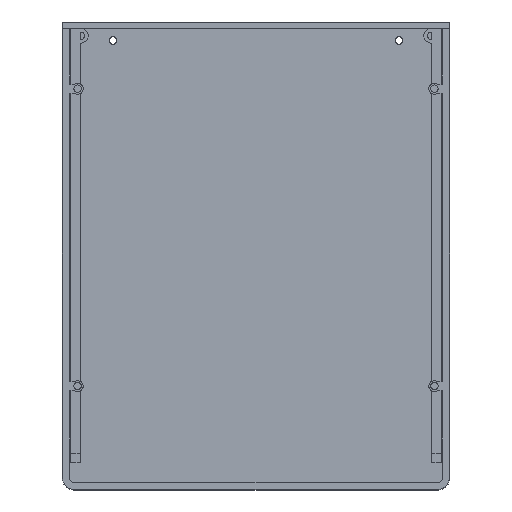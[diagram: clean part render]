
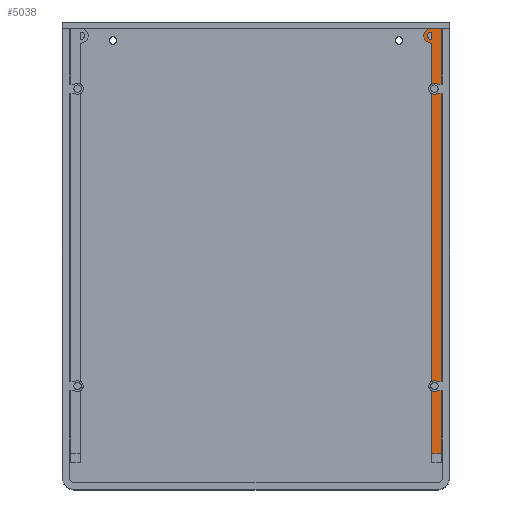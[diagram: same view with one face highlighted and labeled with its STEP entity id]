
A CAD part, top view. The second image highlights one B-rep face of the part: STEP entity #5038.
In plain terms, the highlighted planar face has unit normal (0, 0, 1).
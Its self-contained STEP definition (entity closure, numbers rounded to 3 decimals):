
#151 = PLANE('',#152);
#152 = AXIS2_PLACEMENT_3D('',#153,#154,#155);
#153 = CARTESIAN_POINT('',(-1.,200.,1.4));
#154 = DIRECTION('',(0.,1.,0.));
#155 = DIRECTION('',(0.,0.,1.));
#1339 = VERTEX_POINT('',#1340);
#1340 = CARTESIAN_POINT('',(158.886,200.,3.2));
#1353 = CYLINDRICAL_SURFACE('',#1354,3.2);
#1354 = AXIS2_PLACEMENT_3D('',#1355,#1356,#1357);
#1355 = CARTESIAN_POINT('',(160.,197.,2.8));
#1356 = DIRECTION('',(-0.,-0.,-1.));
#1357 = DIRECTION('',(1.,0.,0.));
#1364 = EDGE_CURVE('',#1365,#1339,#1367,.T.);
#1365 = VERTEX_POINT('',#1366);
#1366 = CARTESIAN_POINT('',(164.3,200.,3.2));
#1367 = SURFACE_CURVE('',#1368,(#1372,#1378),.PCURVE_S1.);
#1368 = LINE('',#1369,#1370);
#1369 = CARTESIAN_POINT('',(79.65,200.,3.2));
#1370 = VECTOR('',#1371,1.);
#1371 = DIRECTION('',(-1.,0.,0.));
#1372 = PCURVE('',#151,#1373);
#1373 = DEFINITIONAL_REPRESENTATION('',(#1374),#1377);
#1374 = B_SPLINE_CURVE_WITH_KNOTS('',1,(#1375,#1376),.UNSPECIFIED.,.F.,
  .F.,(2,2),(-84.65,-77.15),.PIECEWISE_BEZIER_KNOTS.);
#1375 = CARTESIAN_POINT('',(1.8,165.3));
#1376 = CARTESIAN_POINT('',(1.8,157.8));
#1377 = ( GEOMETRIC_REPRESENTATION_CONTEXT(2) 
PARAMETRIC_REPRESENTATION_CONTEXT() REPRESENTATION_CONTEXT('2D SPACE',''
  ) );
#1378 = PCURVE('',#1379,#1384);
#1379 = PLANE('',#1380);
#1380 = AXIS2_PLACEMENT_3D('',#1381,#1382,#1383);
#1381 = CARTESIAN_POINT('',(160.3,14.,3.2));
#1382 = DIRECTION('',(0.,0.,1.));
#1383 = DIRECTION('',(1.,0.,0.));
#1384 = DEFINITIONAL_REPRESENTATION('',(#1385),#1388);
#1385 = B_SPLINE_CURVE_WITH_KNOTS('',1,(#1386,#1387),.UNSPECIFIED.,.F.,
  .F.,(2,2),(-84.65,-77.15),.PIECEWISE_BEZIER_KNOTS.);
#1386 = CARTESIAN_POINT('',(4.,186.));
#1387 = CARTESIAN_POINT('',(-3.5,186.));
#1388 = ( GEOMETRIC_REPRESENTATION_CONTEXT(2) 
PARAMETRIC_REPRESENTATION_CONTEXT() REPRESENTATION_CONTEXT('2D SPACE',''
  ) );
#1405 = PLANE('',#1406);
#1406 = AXIS2_PLACEMENT_3D('',#1407,#1408,#1409);
#1407 = CARTESIAN_POINT('',(164.3,12.,2.8));
#1408 = DIRECTION('',(1.,0.,0.));
#1409 = DIRECTION('',(0.,0.,1.));
#4733 = PLANE('',#4734);
#4734 = AXIS2_PLACEMENT_3D('',#4735,#4736,#4737);
#4735 = CARTESIAN_POINT('',(160.3,12.,2.8));
#4736 = DIRECTION('',(1.,0.,0.));
#4737 = DIRECTION('',(0.,0.,1.));
#4938 = VERTEX_POINT('',#4939);
#4939 = CARTESIAN_POINT('',(164.3,15.7,3.2));
#4955 = PLANE('',#4956);
#4956 = AXIS2_PLACEMENT_3D('',#4957,#4958,#4959);
#4957 = CARTESIAN_POINT('',(160.3,15.7,2.8));
#4958 = DIRECTION('',(0.,1.,0.));
#4959 = DIRECTION('',(0.,0.,1.));
#5018 = EDGE_CURVE('',#4938,#1365,#5019,.T.);
#5019 = SURFACE_CURVE('',#5020,(#5024,#5031),.PCURVE_S1.);
#5020 = LINE('',#5021,#5022);
#5021 = CARTESIAN_POINT('',(164.3,14.,3.2));
#5022 = VECTOR('',#5023,1.);
#5023 = DIRECTION('',(0.,1.,0.));
#5024 = PCURVE('',#1405,#5025);
#5025 = DEFINITIONAL_REPRESENTATION('',(#5026),#5030);
#5026 = LINE('',#5027,#5028);
#5027 = CARTESIAN_POINT('',(0.4,-2.));
#5028 = VECTOR('',#5029,1.);
#5029 = DIRECTION('',(0.,-1.));
#5030 = ( GEOMETRIC_REPRESENTATION_CONTEXT(2) 
PARAMETRIC_REPRESENTATION_CONTEXT() REPRESENTATION_CONTEXT('2D SPACE',''
  ) );
#5031 = PCURVE('',#1379,#5032);
#5032 = DEFINITIONAL_REPRESENTATION('',(#5033),#5037);
#5033 = LINE('',#5034,#5035);
#5034 = CARTESIAN_POINT('',(4.,0.));
#5035 = VECTOR('',#5036,1.);
#5036 = DIRECTION('',(0.,1.));
#5037 = ( GEOMETRIC_REPRESENTATION_CONTEXT(2) 
PARAMETRIC_REPRESENTATION_CONTEXT() REPRESENTATION_CONTEXT('2D SPACE',''
  ) );
#5038 = ADVANCED_FACE('',(#5039,#5110),#1379,.T.);
#5039 = FACE_BOUND('',#5040,.T.);
#5040 = EDGE_LOOP('',(#5041,#5066,#5086,#5087,#5088));
#5041 = ORIENTED_EDGE('',*,*,#5042,.F.);
#5042 = EDGE_CURVE('',#5043,#5045,#5047,.T.);
#5043 = VERTEX_POINT('',#5044);
#5044 = CARTESIAN_POINT('',(160.3,15.7,3.2));
#5045 = VERTEX_POINT('',#5046);
#5046 = CARTESIAN_POINT('',(160.3,193.814,3.2));
#5047 = SURFACE_CURVE('',#5048,(#5052,#5059),.PCURVE_S1.);
#5048 = LINE('',#5049,#5050);
#5049 = CARTESIAN_POINT('',(160.3,14.,3.2));
#5050 = VECTOR('',#5051,1.);
#5051 = DIRECTION('',(0.,1.,0.));
#5052 = PCURVE('',#1379,#5053);
#5053 = DEFINITIONAL_REPRESENTATION('',(#5054),#5058);
#5054 = LINE('',#5055,#5056);
#5055 = CARTESIAN_POINT('',(0.,0.));
#5056 = VECTOR('',#5057,1.);
#5057 = DIRECTION('',(0.,1.));
#5058 = ( GEOMETRIC_REPRESENTATION_CONTEXT(2) 
PARAMETRIC_REPRESENTATION_CONTEXT() REPRESENTATION_CONTEXT('2D SPACE',''
  ) );
#5059 = PCURVE('',#4733,#5060);
#5060 = DEFINITIONAL_REPRESENTATION('',(#5061),#5065);
#5061 = LINE('',#5062,#5063);
#5062 = CARTESIAN_POINT('',(0.4,-2.));
#5063 = VECTOR('',#5064,1.);
#5064 = DIRECTION('',(0.,-1.));
#5065 = ( GEOMETRIC_REPRESENTATION_CONTEXT(2) 
PARAMETRIC_REPRESENTATION_CONTEXT() REPRESENTATION_CONTEXT('2D SPACE',''
  ) );
#5066 = ORIENTED_EDGE('',*,*,#5067,.F.);
#5067 = EDGE_CURVE('',#4938,#5043,#5068,.T.);
#5068 = SURFACE_CURVE('',#5069,(#5073,#5080),.PCURVE_S1.);
#5069 = LINE('',#5070,#5071);
#5070 = CARTESIAN_POINT('',(160.3,15.7,3.2));
#5071 = VECTOR('',#5072,1.);
#5072 = DIRECTION('',(-1.,0.,0.));
#5073 = PCURVE('',#1379,#5074);
#5074 = DEFINITIONAL_REPRESENTATION('',(#5075),#5079);
#5075 = LINE('',#5076,#5077);
#5076 = CARTESIAN_POINT('',(0.,1.7));
#5077 = VECTOR('',#5078,1.);
#5078 = DIRECTION('',(-1.,0.));
#5079 = ( GEOMETRIC_REPRESENTATION_CONTEXT(2) 
PARAMETRIC_REPRESENTATION_CONTEXT() REPRESENTATION_CONTEXT('2D SPACE',''
  ) );
#5080 = PCURVE('',#4955,#5081);
#5081 = DEFINITIONAL_REPRESENTATION('',(#5082),#5085);
#5082 = B_SPLINE_CURVE_WITH_KNOTS('',1,(#5083,#5084),.UNSPECIFIED.,.F.,
  .F.,(2,2),(-4.,0.),.PIECEWISE_BEZIER_KNOTS.);
#5083 = CARTESIAN_POINT('',(0.4,4.));
#5084 = CARTESIAN_POINT('',(0.4,0.));
#5085 = ( GEOMETRIC_REPRESENTATION_CONTEXT(2) 
PARAMETRIC_REPRESENTATION_CONTEXT() REPRESENTATION_CONTEXT('2D SPACE',''
  ) );
#5086 = ORIENTED_EDGE('',*,*,#5018,.T.);
#5087 = ORIENTED_EDGE('',*,*,#1364,.T.);
#5088 = ORIENTED_EDGE('',*,*,#5089,.T.);
#5089 = EDGE_CURVE('',#1339,#5045,#5090,.T.);
#5090 = SURFACE_CURVE('',#5091,(#5096,#5103),.PCURVE_S1.);
#5091 = CIRCLE('',#5092,3.2);
#5092 = AXIS2_PLACEMENT_3D('',#5093,#5094,#5095);
#5093 = CARTESIAN_POINT('',(160.,197.,3.2));
#5094 = DIRECTION('',(0.,0.,1.));
#5095 = DIRECTION('',(1.,0.,0.));
#5096 = PCURVE('',#1379,#5097);
#5097 = DEFINITIONAL_REPRESENTATION('',(#5098),#5102);
#5098 = CIRCLE('',#5099,3.2);
#5099 = AXIS2_PLACEMENT_2D('',#5100,#5101);
#5100 = CARTESIAN_POINT('',(-0.3,183.));
#5101 = DIRECTION('',(1.,0.));
#5102 = ( GEOMETRIC_REPRESENTATION_CONTEXT(2) 
PARAMETRIC_REPRESENTATION_CONTEXT() REPRESENTATION_CONTEXT('2D SPACE',''
  ) );
#5103 = PCURVE('',#1353,#5104);
#5104 = DEFINITIONAL_REPRESENTATION('',(#5105),#5109);
#5105 = LINE('',#5106,#5107);
#5106 = CARTESIAN_POINT('',(-0.,-0.4));
#5107 = VECTOR('',#5108,1.);
#5108 = DIRECTION('',(-1.,0.));
#5109 = ( GEOMETRIC_REPRESENTATION_CONTEXT(2) 
PARAMETRIC_REPRESENTATION_CONTEXT() REPRESENTATION_CONTEXT('2D SPACE',''
  ) );
#5110 = FACE_BOUND('',#5111,.T.);
#5111 = EDGE_LOOP('',(#5112,#5147));
#5112 = ORIENTED_EDGE('',*,*,#5113,.T.);
#5113 = EDGE_CURVE('',#5114,#5116,#5118,.T.);
#5114 = VERTEX_POINT('',#5115);
#5115 = CARTESIAN_POINT('',(160.3,195.428,3.2));
#5116 = VERTEX_POINT('',#5117);
#5117 = CARTESIAN_POINT('',(160.3,198.572,3.2));
#5118 = SURFACE_CURVE('',#5119,(#5124,#5135),.PCURVE_S1.);
#5119 = CIRCLE('',#5120,1.6);
#5120 = AXIS2_PLACEMENT_3D('',#5121,#5122,#5123);
#5121 = CARTESIAN_POINT('',(160.,197.,3.2));
#5122 = DIRECTION('',(0.,0.,-1.));
#5123 = DIRECTION('',(1.,0.,0.));
#5124 = PCURVE('',#1379,#5125);
#5125 = DEFINITIONAL_REPRESENTATION('',(#5126),#5134);
#5126 = ( BOUNDED_CURVE() B_SPLINE_CURVE(2,(#5127,#5128,#5129,#5130,
#5131,#5132,#5133),.UNSPECIFIED.,.T.,.F.) B_SPLINE_CURVE_WITH_KNOTS((1,2
    ,2,2,2,1),(-2.094,0.,2.094,4.189,
6.283,8.378),.UNSPECIFIED.) CURVE() 
GEOMETRIC_REPRESENTATION_ITEM() RATIONAL_B_SPLINE_CURVE((1.,0.5,1.,0.5,
1.,0.5,1.)) REPRESENTATION_ITEM('') );
#5127 = CARTESIAN_POINT('',(1.3,183.));
#5128 = CARTESIAN_POINT('',(1.3,180.229));
#5129 = CARTESIAN_POINT('',(-1.1,181.614));
#5130 = CARTESIAN_POINT('',(-3.5,183.));
#5131 = CARTESIAN_POINT('',(-1.1,184.386));
#5132 = CARTESIAN_POINT('',(1.3,185.771));
#5133 = CARTESIAN_POINT('',(1.3,183.));
#5134 = ( GEOMETRIC_REPRESENTATION_CONTEXT(2) 
PARAMETRIC_REPRESENTATION_CONTEXT() REPRESENTATION_CONTEXT('2D SPACE',''
  ) );
#5135 = PCURVE('',#5136,#5141);
#5136 = CYLINDRICAL_SURFACE('',#5137,1.6);
#5137 = AXIS2_PLACEMENT_3D('',#5138,#5139,#5140);
#5138 = CARTESIAN_POINT('',(160.,197.,0.));
#5139 = DIRECTION('',(-0.,-0.,-1.));
#5140 = DIRECTION('',(1.,0.,0.));
#5141 = DEFINITIONAL_REPRESENTATION('',(#5142),#5146);
#5142 = LINE('',#5143,#5144);
#5143 = CARTESIAN_POINT('',(-6.283,-3.2));
#5144 = VECTOR('',#5145,1.);
#5145 = DIRECTION('',(1.,-0.));
#5146 = ( GEOMETRIC_REPRESENTATION_CONTEXT(2) 
PARAMETRIC_REPRESENTATION_CONTEXT() REPRESENTATION_CONTEXT('2D SPACE',''
  ) );
#5147 = ORIENTED_EDGE('',*,*,#5148,.F.);
#5148 = EDGE_CURVE('',#5114,#5116,#5149,.T.);
#5149 = SURFACE_CURVE('',#5150,(#5154,#5161),.PCURVE_S1.);
#5150 = LINE('',#5151,#5152);
#5151 = CARTESIAN_POINT('',(160.3,14.,3.2));
#5152 = VECTOR('',#5153,1.);
#5153 = DIRECTION('',(0.,1.,0.));
#5154 = PCURVE('',#1379,#5155);
#5155 = DEFINITIONAL_REPRESENTATION('',(#5156),#5160);
#5156 = LINE('',#5157,#5158);
#5157 = CARTESIAN_POINT('',(0.,0.));
#5158 = VECTOR('',#5159,1.);
#5159 = DIRECTION('',(0.,1.));
#5160 = ( GEOMETRIC_REPRESENTATION_CONTEXT(2) 
PARAMETRIC_REPRESENTATION_CONTEXT() REPRESENTATION_CONTEXT('2D SPACE',''
  ) );
#5161 = PCURVE('',#5162,#5167);
#5162 = PLANE('',#5163);
#5163 = AXIS2_PLACEMENT_3D('',#5164,#5165,#5166);
#5164 = CARTESIAN_POINT('',(160.3,12.,2.8));
#5165 = DIRECTION('',(1.,0.,0.));
#5166 = DIRECTION('',(0.,0.,1.));
#5167 = DEFINITIONAL_REPRESENTATION('',(#5168),#5172);
#5168 = LINE('',#5169,#5170);
#5169 = CARTESIAN_POINT('',(0.4,-2.));
#5170 = VECTOR('',#5171,1.);
#5171 = DIRECTION('',(0.,-1.));
#5172 = ( GEOMETRIC_REPRESENTATION_CONTEXT(2) 
PARAMETRIC_REPRESENTATION_CONTEXT() REPRESENTATION_CONTEXT('2D SPACE',''
  ) );
